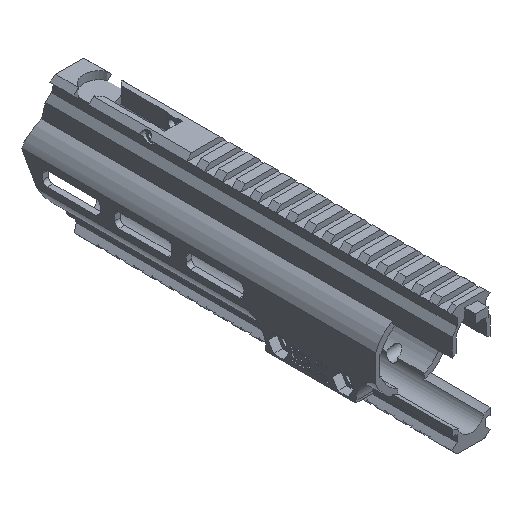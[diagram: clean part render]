
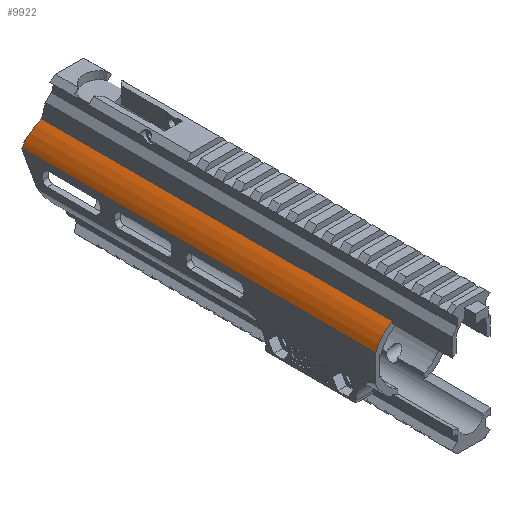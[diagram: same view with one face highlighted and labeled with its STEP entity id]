
A CAD part, isometric view. The second image highlights one B-rep face of the part: STEP entity #9922.
In plain terms, the highlighted cylindrical face has radius 21.169 mm (diameter 42.338 mm), a partial arc.
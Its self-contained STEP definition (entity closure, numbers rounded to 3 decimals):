
#138=B_SPLINE_CURVE_WITH_KNOTS('',3,(#14421,#14422,#14423,#14424),
 .UNSPECIFIED.,.F.,.F.,(4,4),(1.386,1.405),
 .UNSPECIFIED.);
#140=B_SPLINE_CURVE_WITH_KNOTS('',3,(#14445,#14446,#14447,#14448),
 .UNSPECIFIED.,.F.,.F.,(4,4),(1.445,1.519),
 .UNSPECIFIED.);
#280=CYLINDRICAL_SURFACE('',#10528,21.169);
#332=ELLIPSE('',#10441,21.711,21.169);
#442=FACE_OUTER_BOUND('',#965,.T.);
#965=EDGE_LOOP('',(#7113,#7114,#7115,#7116,#7117,#7118,#7119));
#1781=LINE('',#14440,#2996);
#1782=LINE('',#14443,#2997);
#2996=VECTOR('',#11686,10.);
#2997=VECTOR('',#11689,10.);
#3887=CIRCLE('',#10529,21.169);
#3888=CIRCLE('',#10530,21.169);
#4178=VERTEX_POINT('',#13931);
#4179=VERTEX_POINT('',#13933);
#4330=VERTEX_POINT('',#14419);
#4331=VERTEX_POINT('',#14420);
#4334=VERTEX_POINT('',#14439);
#4335=VERTEX_POINT('',#14441);
#4336=VERTEX_POINT('',#14444);
#5236=EDGE_CURVE('',#4178,#4179,#332,.T.);
#5414=EDGE_CURVE('',#4330,#4331,#138,.T.);
#5420=EDGE_CURVE('',#4334,#4330,#1781,.T.);
#5421=EDGE_CURVE('',#4335,#4334,#3887,.T.);
#5422=EDGE_CURVE('',#4179,#4335,#1782,.T.);
#5423=EDGE_CURVE('',#4336,#4178,#140,.T.);
#5424=EDGE_CURVE('',#4331,#4336,#3888,.T.);
#7113=ORIENTED_EDGE('',*,*,#5414,.F.);
#7114=ORIENTED_EDGE('',*,*,#5420,.F.);
#7115=ORIENTED_EDGE('',*,*,#5421,.F.);
#7116=ORIENTED_EDGE('',*,*,#5422,.F.);
#7117=ORIENTED_EDGE('',*,*,#5236,.F.);
#7118=ORIENTED_EDGE('',*,*,#5423,.F.);
#7119=ORIENTED_EDGE('',*,*,#5424,.F.);
#9922=ADVANCED_FACE('',(#442),#280,.T.);
#10441=AXIS2_PLACEMENT_3D('',#13934,#11389,#11390);
#10528=AXIS2_PLACEMENT_3D('',#14438,#11684,#11685);
#10529=AXIS2_PLACEMENT_3D('',#14442,#11687,#11688);
#10530=AXIS2_PLACEMENT_3D('',#14449,#11690,#11691);
#11389=DIRECTION('center_axis',(0.,0.975,0.222));
#11390=DIRECTION('ref_axis',(0.,-0.222,0.975));
#11684=DIRECTION('center_axis',(0.,1.,0.));
#11685=DIRECTION('ref_axis',(0.933,0.,0.36));
#11686=DIRECTION('',(0.,1.,0.));
#11687=DIRECTION('center_axis',(0.,-1.,0.));
#11688=DIRECTION('ref_axis',(0.933,0.,0.36));
#11689=DIRECTION('',(0.,-1.,0.));
#11690=DIRECTION('center_axis',(0.,1.,0.));
#11691=DIRECTION('ref_axis',(0.933,0.,0.36));
#13931=CARTESIAN_POINT('',(-81.276,-30.564,41.17));
#13933=CARTESIAN_POINT('',(-73.579,-32.307,48.823));
#13934=CARTESIAN_POINT('Origin',(-63.,-28.131,30.487));
#14419=CARTESIAN_POINT('',(-82.75,-30.494,38.107));
#14420=CARTESIAN_POINT('',(-82.679,-30.489,38.289));
#14421=CARTESIAN_POINT('Ctrl Pts',(-82.75,-30.494,
38.107));
#14422=CARTESIAN_POINT('Ctrl Pts',(-82.726,-30.491,
38.168));
#14423=CARTESIAN_POINT('Ctrl Pts',(-82.703,-30.489,
38.229));
#14424=CARTESIAN_POINT('Ctrl Pts',(-82.679,-30.489,
38.289));
#14438=CARTESIAN_POINT('Origin',(-63.,-227.989,30.487));
#14439=CARTESIAN_POINT('',(-82.75,-227.989,38.107));
#14440=CARTESIAN_POINT('',(-82.75,-227.989,38.107));
#14441=CARTESIAN_POINT('',(-73.579,-227.989,48.823));
#14442=CARTESIAN_POINT('Origin',(-63.,-227.989,30.487));
#14443=CARTESIAN_POINT('',(-73.579,-227.989,48.823));
#14444=CARTESIAN_POINT('',(-81.649,-30.489,40.504));
#14445=CARTESIAN_POINT('Ctrl Pts',(-81.649,-30.489,
40.504));
#14446=CARTESIAN_POINT('Ctrl Pts',(-81.532,-30.489,
40.722));
#14447=CARTESIAN_POINT('Ctrl Pts',(-81.406,-30.513,40.948));
#14448=CARTESIAN_POINT('Ctrl Pts',(-81.276,-30.564,
41.17));
#14449=CARTESIAN_POINT('Origin',(-63.,-30.489,30.487));
